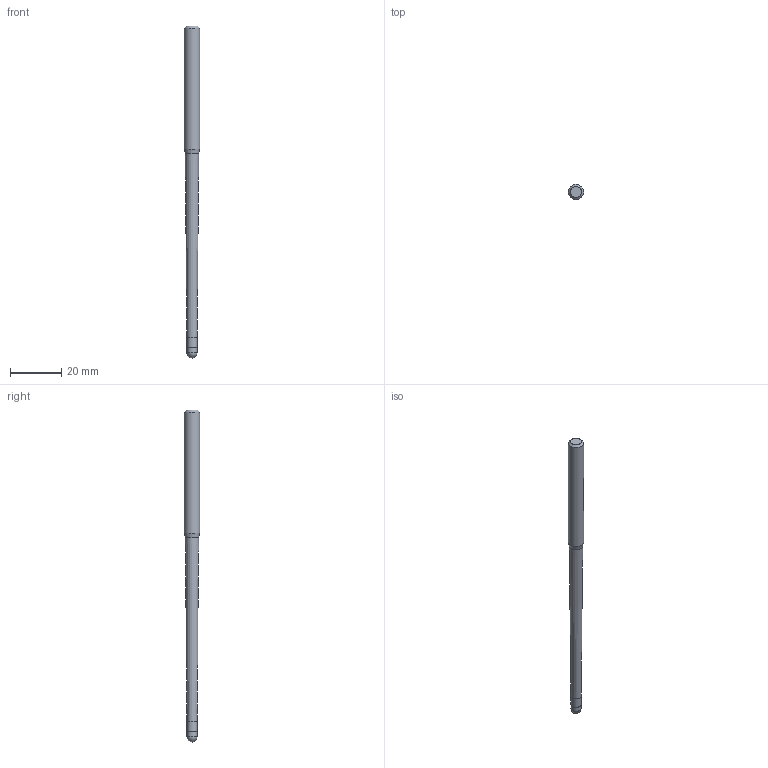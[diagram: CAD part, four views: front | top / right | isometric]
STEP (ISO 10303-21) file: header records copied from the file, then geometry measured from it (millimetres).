
FILE_DESCRIPTION((''),'2;1');
FILE_NAME('C:\Users\nsx150\AppData\Local\Temp\Mastercam 2021\SNAKH10GOD\TEMP.step','2021-10-21T13:33:31',(''),(''),'STEP Write','Mastercam 2021 ... CNC Software, Inc.','');
FILE_SCHEMA(('AUTOMOTIVE_DESIGN'));
Length unit declared in the file: millimetre
Products named in the file (1): None
Bounding box: 6 x 6 x 130 mm (x, y, z)
Volume: 2708.8 mm3; surface area: 2130.1 mm2
Topology: 2 solids, 2 shells, 10 faces, 16 edges, 9 vertices
Faces by surface type: plane 3, cylinder 3, cone 3, sphere 1
Full cylindrical faces by diameter (mm): 3.98 x1, 4 x1, 6 x1
Entity records: 232 total; most frequent: DIRECTION 40, CARTESIAN_POINT 28, AXIS2_PLACEMENT_3D 20, ORIENTED_EDGE 16, EDGE_LOOP 16, STYLED_ITEM 13, ADVANCED_FACE 10, FACE_BOUND 9
